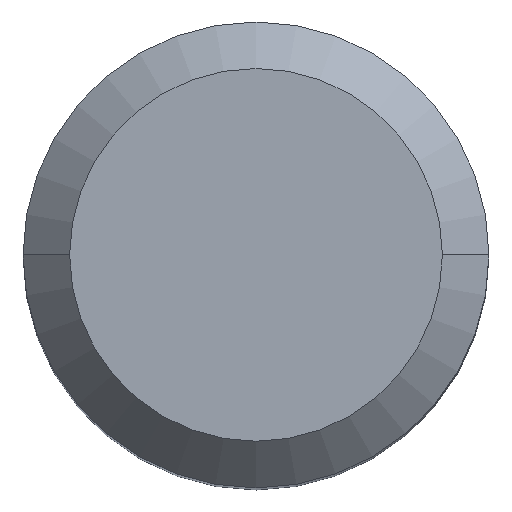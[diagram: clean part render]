
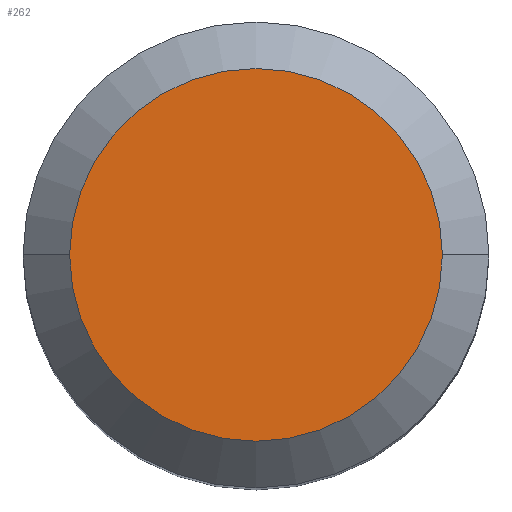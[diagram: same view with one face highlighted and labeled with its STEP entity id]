
A CAD part, top view. The second image highlights one B-rep face of the part: STEP entity #262.
In plain terms, the highlighted planar face has unit normal (0, 0, 1).
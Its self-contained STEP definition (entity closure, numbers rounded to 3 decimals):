
#14 = AXIS2_PLACEMENT_3D ( 'NONE', #243, #64, #508 ) ;
#16 = EDGE_CURVE ( 'NONE', #358, #461, #307, .T. ) ;
#49 = EDGE_CURVE ( 'NONE', #461, #358, #426, .T. ) ;
#50 = DIRECTION ( 'NONE',  ( 0., 0., 1. ) ) ;
#64 = DIRECTION ( 'NONE',  ( 0., 0., -1. ) ) ;
#134 = AXIS2_PLACEMENT_3D ( 'NONE', #339, #375, #163 ) ;
#140 = FACE_OUTER_BOUND ( 'NONE', #196, .T. ) ;
#145 = DIRECTION ( 'NONE',  ( 1., 0., 0. ) ) ;
#163 = DIRECTION ( 'NONE',  ( -1., 0., 0. ) ) ;
#196 = EDGE_LOOP ( 'NONE', ( #367, #520 ) ) ;
#220 = AXIS2_PLACEMENT_3D ( 'NONE', #419, #50, #145 ) ;
#240 = PLANE ( 'NONE',  #220 ) ;
#243 = CARTESIAN_POINT ( 'NONE',  ( 0., 0., 0. ) ) ;
#262 = ADVANCED_FACE ( 'NONE', ( #140 ), #240, .T. ) ;
#307 = CIRCLE ( 'NONE', #134, 7.2 ) ;
#339 = CARTESIAN_POINT ( 'NONE',  ( 0., 0., 0. ) ) ;
#358 = VERTEX_POINT ( 'NONE', #373 ) ;
#367 = ORIENTED_EDGE ( 'NONE', *, *, #16, .F. ) ;
#373 = CARTESIAN_POINT ( 'NONE',  ( -7.2, 0., 0. ) ) ;
#375 = DIRECTION ( 'NONE',  ( 0., 0., -1. ) ) ;
#419 = CARTESIAN_POINT ( 'NONE',  ( 0., 7.2, 0. ) ) ;
#426 = CIRCLE ( 'NONE', #14, 7.2 ) ;
#434 = CARTESIAN_POINT ( 'NONE',  ( 7.2, 0., 0. ) ) ;
#461 = VERTEX_POINT ( 'NONE', #434 ) ;
#508 = DIRECTION ( 'NONE',  ( -1., 0., 0. ) ) ;
#520 = ORIENTED_EDGE ( 'NONE', *, *, #49, .F. ) ;
